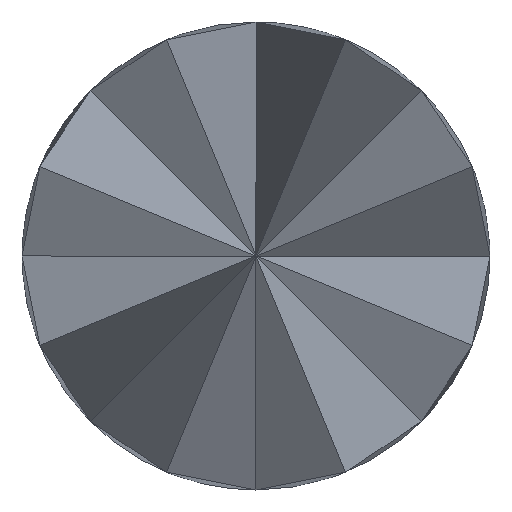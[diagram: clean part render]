
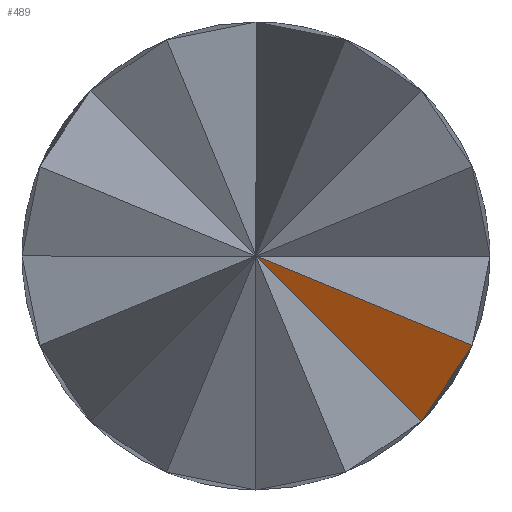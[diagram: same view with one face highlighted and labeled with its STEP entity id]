
A CAD part, left-side view. The second image highlights one B-rep face of the part: STEP entity #489.
In plain terms, the highlighted free-form (B-spline) face has degree [1, 1] with [2, 2] control points.
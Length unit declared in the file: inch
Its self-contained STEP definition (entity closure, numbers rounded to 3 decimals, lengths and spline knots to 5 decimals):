
#5 = CARTESIAN_POINT ( 'NONE',  ( 0.01142, 0., 0. ) ) ;
#13 = CARTESIAN_POINT ( 'NONE',  ( 0.01925, -0.00554, -0.00554 ) ) ;
#21 = EDGE_CURVE ( 'NONE', #641, #842, #768, .T. ) ;
#218 = CARTESIAN_POINT ( 'NONE',  ( 0., -0.02171, -0.00899 ) ) ;
#287 = ORIENTED_EDGE ( 'NONE', *, *, #648, .T. ) ;
#294 = CARTESIAN_POINT ( 'NONE',  ( 0.02709, -0.01108, -0.01108 ) ) ;
#320 = CARTESIAN_POINT ( 'NONE',  ( 0.00761, -0.00724, -0.003 ) ) ;
#346 = CARTESIAN_POINT ( 'NONE',  ( 0.02344, -0.01882, -0.01441 ) ) ;
#399 = CARTESIAN_POINT ( 'NONE',  ( 0.01142, 0., 0. ) ) ;
#400 = ORIENTED_EDGE ( 'NONE', *, *, #21, .T. ) ;
#404 = CARTESIAN_POINT ( 'NONE',  ( -0.00021, -0.00139, 0.00271 ) ) ;
#489 = ADVANCED_FACE ( 'NONE', ( #694 ), #1141, .F. ) ;
#503 = CARTESIAN_POINT ( 'NONE',  ( -0.00021, -0.02203, -0.00911 ) ) ;
#545 = ORIENTED_EDGE ( 'NONE', *, *, #789, .F. ) ;
#551 = CARTESIAN_POINT ( 'NONE',  ( 0., -0.02171, -0.00899 ) ) ;
#583 = CARTESIAN_POINT ( 'NONE',  ( 0.03492, -0.01662, -0.01662 ) ) ;
#610 = B_SPLINE_CURVE_WITH_KNOTS ( 'NONE', 3,
 ( #218, #809, #320, #1205 ),
 .UNSPECIFIED., .F., .F.,
 ( 4, 4 ),
 ( 0., 1. ),
 .UNSPECIFIED. ) ;
#624 = CARTESIAN_POINT ( 'NONE',  ( 0., -0.02171, -0.00899 ) ) ;
#641 = VERTEX_POINT ( 'NONE', #804 ) ;
#648 = EDGE_CURVE ( 'NONE', #842, #661, #610, .T. ) ;
#661 = VERTEX_POINT ( 'NONE', #5 ) ;
#694 = FACE_OUTER_BOUND ( 'NONE', #761, .T. ) ;
#761 = EDGE_LOOP ( 'NONE', ( #287, #545, #400 ) ) ;
#768 = B_SPLINE_CURVE_WITH_KNOTS ( 'NONE', 3,
 ( #851, #346, #816, #551 ),
 .UNSPECIFIED., .F., .F.,
 ( 4, 4 ),
 ( 0., 1. ),
 .UNSPECIFIED. ) ;
#789 = EDGE_CURVE ( 'NONE', #641, #661, #1165, .T. ) ;
#804 = CARTESIAN_POINT ( 'NONE',  ( 0.03492, -0.01662, -0.01662 ) ) ;
#809 = CARTESIAN_POINT ( 'NONE',  ( 0.00381, -0.01447, -0.006 ) ) ;
#816 = CARTESIAN_POINT ( 'NONE',  ( 0.0118, -0.02052, -0.01187 ) ) ;
#842 = VERTEX_POINT ( 'NONE', #624 ) ;
#851 = CARTESIAN_POINT ( 'NONE',  ( 0.03492, -0.01662, -0.01662 ) ) ;
#1012 = CARTESIAN_POINT ( 'NONE',  ( 0.03513, -0.01742, -0.01714 ) ) ;
#1086 = CARTESIAN_POINT ( 'NONE',  ( 0.03513, 0.00321, -0.00532 ) ) ;
#1141 = B_SPLINE_SURFACE_WITH_KNOTS ( 'NONE', 1, 1, ( 
 ( #404, #1086 ),
 ( #503, #1012 ) ),
 .UNSPECIFIED., .F., .F., .F.,
 ( 2, 2 ),
 ( 2, 2 ),
 ( 0., 1. ),
 ( 0., 1. ),
 .UNSPECIFIED. ) ;
#1165 = B_SPLINE_CURVE_WITH_KNOTS ( 'NONE', 3,
 ( #583, #294, #13, #399 ),
 .UNSPECIFIED., .F., .F.,
 ( 4, 4 ),
 ( 0., 1. ),
 .UNSPECIFIED. ) ;
#1205 = CARTESIAN_POINT ( 'NONE',  ( 0.01142, 0., 0. ) ) ;
